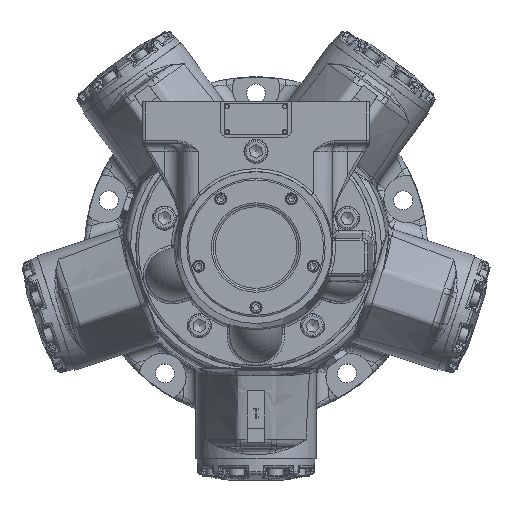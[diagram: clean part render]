
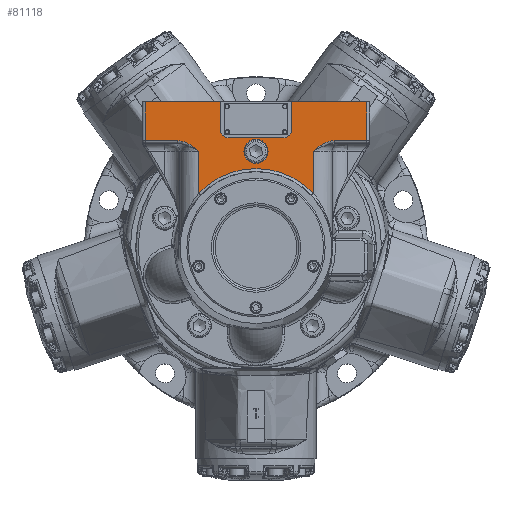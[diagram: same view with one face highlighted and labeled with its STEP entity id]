
A CAD part, top view. The second image highlights one B-rep face of the part: STEP entity #81118.
In plain terms, the highlighted planar face has unit normal (0, 0, 1).
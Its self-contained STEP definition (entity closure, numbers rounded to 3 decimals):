
#1714=FACE_BOUND('',#17726,.T.);
#2051=PLANE('',#86506);
#4535=LINE('',#118514,#8372);
#4554=LINE('',#119456,#8391);
#4588=LINE('',#120046,#8425);
#4593=LINE('',#120325,#8430);
#4595=LINE('',#120407,#8432);
#4615=LINE('',#134357,#8452);
#4622=LINE('',#134372,#8459);
#4623=LINE('',#134374,#8460);
#4646=LINE('',#134532,#8483);
#4647=LINE('',#134536,#8484);
#4648=LINE('',#134539,#8485);
#8372=VECTOR('',#93851,10.);
#8391=VECTOR('',#93918,10.);
#8425=VECTOR('',#94104,10.);
#8430=VECTOR('',#94149,10.);
#8432=VECTOR('',#94161,10.);
#8452=VECTOR('',#94405,10.);
#8459=VECTOR('',#94422,10.);
#8460=VECTOR('',#94423,10.);
#8483=VECTOR('',#94550,10.);
#8484=VECTOR('',#94553,10.);
#8485=VECTOR('',#94556,10.);
#12553=FACE_OUTER_BOUND('',#17725,.T.);
#17725=EDGE_LOOP('',(#51378,#51379,#51380,#51381,#51382,#51383,#51384,#51385,
#51386,#51387,#51388,#51389,#51390,#51391,#51392,#51393));
#17726=EDGE_LOOP('',(#51394));
#22936=CIRCLE('',#86396,83.375);
#22990=CIRCLE('',#86467,12.7);
#23005=CIRCLE('',#86507,8.);
#23006=CIRCLE('',#86508,8.);
#26273=B_SPLINE_CURVE_WITH_KNOTS('',3,(#120107,#120108,#120109,#120110,
#120111,#120112,#120113,#120114,#120115,#120116,#120117,#120118),
 .UNSPECIFIED.,.F.,.F.,(4,2,1,1,1,1,1,1,4),(-0.002,0.,0.504,
1.007,1.511,1.762,2.014,2.266,
2.518),.UNSPECIFIED.);
#26275=B_SPLINE_CURVE_WITH_KNOTS('',3,(#120391,#120392,#120393,#120394,
#120395,#120396,#120397,#120398,#120399,#120400,#120401,#120402),
 .UNSPECIFIED.,.F.,.F.,(4,1,1,1,1,1,1,2,4),(0.,0.504,0.755,
1.007,1.259,1.511,2.014,2.518,
2.519),.UNSPECIFIED.);
#30463=VERTEX_POINT('',#118511);
#30464=VERTEX_POINT('',#118513);
#30516=VERTEX_POINT('',#119442);
#30517=VERTEX_POINT('',#119455);
#30565=VERTEX_POINT('',#120042);
#30566=VERTEX_POINT('',#120044);
#30571=VERTEX_POINT('',#120322);
#30573=VERTEX_POINT('',#120390);
#30574=VERTEX_POINT('',#120405);
#30667=VERTEX_POINT('',#134355);
#30670=VERTEX_POINT('',#134370);
#30671=VERTEX_POINT('',#134373);
#30684=VERTEX_POINT('',#134400);
#30706=VERTEX_POINT('',#134531);
#30707=VERTEX_POINT('',#134533);
#30708=VERTEX_POINT('',#134535);
#30709=VERTEX_POINT('',#134537);
#37870=EDGE_CURVE('',#30463,#30464,#4535,.T.);
#37947=EDGE_CURVE('',#30516,#30517,#4554,.T.);
#38044=EDGE_CURVE('',#30566,#30565,#4588,.T.);
#38045=EDGE_CURVE('',#30517,#30566,#26273,.T.);
#38064=EDGE_CURVE('',#30565,#30571,#4593,.T.);
#38067=EDGE_CURVE('',#30573,#30463,#26275,.T.);
#38070=EDGE_CURVE('',#30574,#30573,#4595,.T.);
#38156=EDGE_CURVE('',#30464,#30516,#22936,.T.);
#38254=EDGE_CURVE('',#30667,#30574,#4615,.T.);
#38262=EDGE_CURVE('',#30667,#30670,#4622,.T.);
#38263=EDGE_CURVE('',#30671,#30571,#4623,.T.);
#38277=EDGE_CURVE('',#30684,#30684,#22990,.T.);
#38316=EDGE_CURVE('',#30670,#30706,#4646,.T.);
#38317=EDGE_CURVE('',#30706,#30707,#23005,.T.);
#38318=EDGE_CURVE('',#30707,#30708,#4647,.T.);
#38319=EDGE_CURVE('',#30708,#30709,#23006,.T.);
#38320=EDGE_CURVE('',#30709,#30671,#4648,.T.);
#51378=ORIENTED_EDGE('',*,*,#38316,.T.);
#51379=ORIENTED_EDGE('',*,*,#38317,.T.);
#51380=ORIENTED_EDGE('',*,*,#38318,.T.);
#51381=ORIENTED_EDGE('',*,*,#38319,.T.);
#51382=ORIENTED_EDGE('',*,*,#38320,.T.);
#51383=ORIENTED_EDGE('',*,*,#38263,.T.);
#51384=ORIENTED_EDGE('',*,*,#38064,.F.);
#51385=ORIENTED_EDGE('',*,*,#38044,.F.);
#51386=ORIENTED_EDGE('',*,*,#38045,.F.);
#51387=ORIENTED_EDGE('',*,*,#37947,.F.);
#51388=ORIENTED_EDGE('',*,*,#38156,.F.);
#51389=ORIENTED_EDGE('',*,*,#37870,.F.);
#51390=ORIENTED_EDGE('',*,*,#38067,.F.);
#51391=ORIENTED_EDGE('',*,*,#38070,.F.);
#51392=ORIENTED_EDGE('',*,*,#38254,.F.);
#51393=ORIENTED_EDGE('',*,*,#38262,.T.);
#51394=ORIENTED_EDGE('',*,*,#38277,.T.);
#81118=ADVANCED_FACE('',(#12553,#1714),#2051,.T.);
#86396=AXIS2_PLACEMENT_3D('',#122145,#94292,#94293);
#86467=AXIS2_PLACEMENT_3D('',#134402,#94450,#94451);
#86506=AXIS2_PLACEMENT_3D('',#134530,#94548,#94549);
#86507=AXIS2_PLACEMENT_3D('',#134534,#94551,#94552);
#86508=AXIS2_PLACEMENT_3D('',#134538,#94554,#94555);
#93851=DIRECTION('',(0.,-1.,0.));
#93918=DIRECTION('',(0.,1.,0.));
#94104=DIRECTION('',(-1.,0.,0.));
#94149=DIRECTION('',(0.,1.,0.));
#94161=DIRECTION('',(-1.,0.,0.));
#94292=DIRECTION('center_axis',(0.,0.,
1.));
#94293=DIRECTION('ref_axis',(0.,1.,0.));
#94405=DIRECTION('',(0.,-1.,0.));
#94422=DIRECTION('',(-1.,0.,0.));
#94423=DIRECTION('',(-1.,0.,0.));
#94450=DIRECTION('center_axis',(0.,0.,
-1.));
#94451=DIRECTION('ref_axis',(-1.,0.,0.));
#94548=DIRECTION('center_axis',(0.,0.,
1.));
#94549=DIRECTION('ref_axis',(-1.,0.,0.));
#94550=DIRECTION('',(0.,-1.,0.));
#94551=DIRECTION('center_axis',(0.,0.,
-1.));
#94552=DIRECTION('ref_axis',(0.,-1.,0.));
#94553=DIRECTION('',(-1.,0.,0.));
#94554=DIRECTION('center_axis',(0.,0.,
-1.));
#94555=DIRECTION('ref_axis',(-1.,0.,0.));
#94556=DIRECTION('',(0.,1.,0.));
#118511=CARTESIAN_POINT('',(60.478,102.,378.978));
#118513=CARTESIAN_POINT('',(60.478,57.392,378.978));
#118514=CARTESIAN_POINT('',(60.478,134.5,378.978));
#119442=CARTESIAN_POINT('',(-60.478,57.392,378.978));
#119455=CARTESIAN_POINT('',(-60.478,102.,378.978));
#119456=CARTESIAN_POINT('',(-60.478,79.5,378.978));
#120042=CARTESIAN_POINT('',(-117.,113.,378.978));
#120044=CARTESIAN_POINT('',(-82.727,113.,378.978));
#120046=CARTESIAN_POINT('',(60.,113.,378.978));
#120107=CARTESIAN_POINT('Ctrl Pts',(-60.478,102.,378.978));
#120108=CARTESIAN_POINT('Ctrl Pts',(-60.483,102.004,
378.978));
#120109=CARTESIAN_POINT('Ctrl Pts',(-60.488,102.008,
378.977));
#120110=CARTESIAN_POINT('Ctrl Pts',(-61.801,103.064,378.978));
#120111=CARTESIAN_POINT('Ctrl Pts',(-64.445,105.191,
378.978));
#120112=CARTESIAN_POINT('Ctrl Pts',(-68.576,108.18,
378.978));
#120113=CARTESIAN_POINT('Ctrl Pts',(-72.226,110.283,
378.978));
#120114=CARTESIAN_POINT('Ctrl Pts',(-75.303,111.601,
378.978));
#120115=CARTESIAN_POINT('Ctrl Pts',(-77.711,112.374,
378.978));
#120116=CARTESIAN_POINT('Ctrl Pts',(-80.205,112.879,
378.978));
#120117=CARTESIAN_POINT('Ctrl Pts',(-81.888,113.,378.978));
#120118=CARTESIAN_POINT('Ctrl Pts',(-82.727,113.,378.978));
#120322=CARTESIAN_POINT('',(-117.,154.,378.978));
#120325=CARTESIAN_POINT('',(-117.,159.,378.978));
#120390=CARTESIAN_POINT('',(82.727,113.,378.978));
#120391=CARTESIAN_POINT('Ctrl Pts',(82.727,113.,378.978));
#120392=CARTESIAN_POINT('Ctrl Pts',(81.049,113.,378.978));
#120393=CARTESIAN_POINT('Ctrl Pts',(78.513,112.632,378.978));
#120394=CARTESIAN_POINT('Ctrl Pts',(75.303,111.6,378.978));
#120395=CARTESIAN_POINT('Ctrl Pts',(72.995,110.612,378.978));
#120396=CARTESIAN_POINT('Ctrl Pts',(70.765,109.441,378.978));
#120397=CARTESIAN_POINT('Ctrl Pts',(67.888,107.682,378.978));
#120398=CARTESIAN_POINT('Ctrl Pts',(64.444,105.19,378.978));
#120399=CARTESIAN_POINT('Ctrl Pts',(61.801,103.064,378.978));
#120400=CARTESIAN_POINT('Ctrl Pts',(60.488,102.008,378.978));
#120401=CARTESIAN_POINT('Ctrl Pts',(60.483,102.004,378.978));
#120402=CARTESIAN_POINT('Ctrl Pts',(60.478,102.,378.978));
#120405=CARTESIAN_POINT('',(117.,113.,378.978));
#120407=CARTESIAN_POINT('',(60.,113.,378.978));
#122145=CARTESIAN_POINT('Origin',(0.,0.,
378.978));
#134355=CARTESIAN_POINT('',(117.,154.,378.978));
#134357=CARTESIAN_POINT('',(117.,159.,378.978));
#134370=CARTESIAN_POINT('',(37.5,154.,378.978));
#134372=CARTESIAN_POINT('',(149.802,154.,378.978));
#134373=CARTESIAN_POINT('',(-37.5,154.,378.978));
#134374=CARTESIAN_POINT('',(149.802,154.,378.978));
#134400=CARTESIAN_POINT('',(12.7,101.6,378.978));
#134402=CARTESIAN_POINT('Origin',(0.,101.6,378.978));
#134530=CARTESIAN_POINT('Origin',(120.,159.,378.978));
#134531=CARTESIAN_POINT('',(37.5,124.,378.978));
#134532=CARTESIAN_POINT('',(37.5,156.5,378.978));
#134533=CARTESIAN_POINT('',(29.5,116.,378.978));
#134534=CARTESIAN_POINT('Origin',(29.5,124.,378.978));
#134535=CARTESIAN_POINT('',(-29.5,116.,378.978));
#134536=CARTESIAN_POINT('',(74.75,116.,378.978));
#134537=CARTESIAN_POINT('',(-37.5,124.,378.978));
#134538=CARTESIAN_POINT('Origin',(-29.5,124.,378.978));
#134539=CARTESIAN_POINT('',(-37.5,141.5,378.978));
